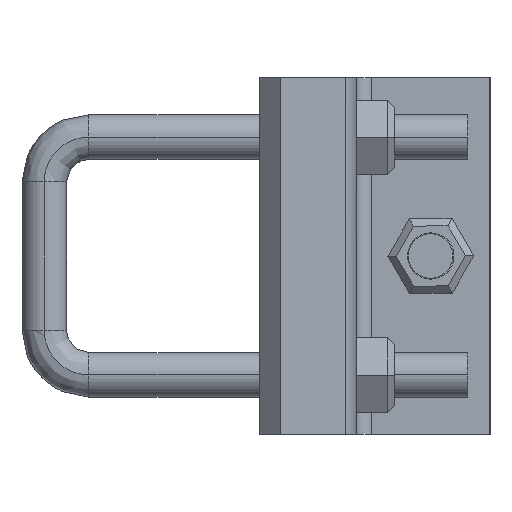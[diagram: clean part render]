
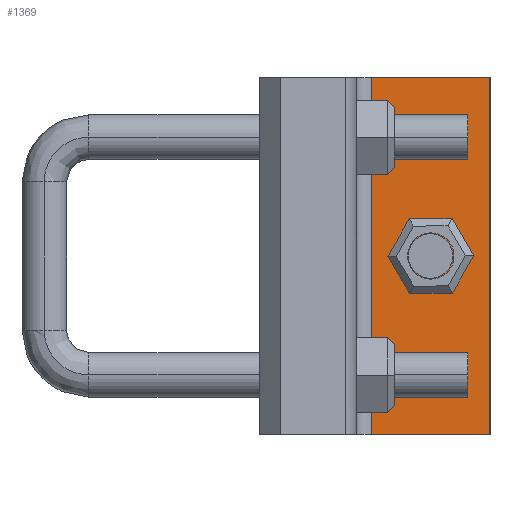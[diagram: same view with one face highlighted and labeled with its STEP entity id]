
A CAD part, left-side view. The second image highlights one B-rep face of the part: STEP entity #1369.
In plain terms, the highlighted planar face has unit normal (-1, 0, 0).
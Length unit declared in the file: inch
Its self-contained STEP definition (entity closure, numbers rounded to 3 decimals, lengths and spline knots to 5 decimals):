
#1149=EDGE_CURVE('',#2561,#2562,#2563,.T.);
#1291=EDGE_CURVE('',#2757,#2758,#2759,.T.);
#1319=EDGE_CURVE('',#2757,#2561,#2791,.T.);
#1369=ADVANCED_FACE('',(#2850,#2851),#2852,.T.);
#1691=EDGE_CURVE('',#2562,#2758,#3243,.T.);
#2561=VERTEX_POINT('',#4977);
#2562=VERTEX_POINT('',#4978);
#2563=LINE('',#4979,#4980);
#2757=VERTEX_POINT('',#5451);
#2758=VERTEX_POINT('',#5452);
#2759=LINE('',#5453,#5454);
#2791=LINE('',#5525,#5526);
#2850=FACE_OUTER_BOUND('',#5633,.T.);
#2851=FACE_BOUND('',#5634,.T.);
#2852=PLANE('',#5635);
#3243=LINE('',#6348,#6349);
#4977=CARTESIAN_POINT('',(-6.0,0.0,0.0));
#4978=CARTESIAN_POINT('',(-6.0,0.0,3.0));
#4979=CARTESIAN_POINT('',(-6.0,0.0,0.0));
#4980=VECTOR('',#7297,1.0);
#5451=CARTESIAN_POINT('',(-6.0,1.0,0.0));
#5452=CARTESIAN_POINT('',(-6.0,1.0,3.0));
#5453=CARTESIAN_POINT('',(-6.0,1.0,0.0));
#5454=VECTOR('',#7531,1.0);
#5525=CARTESIAN_POINT('',(-6.0,1.0,0.0));
#5526=VECTOR('',#7564,1.0);
#5633=EDGE_LOOP('',(#7625,#7626,#7627,#7628));
#5634=EDGE_LOOP('',(#7629,#7630));
#5635=AXIS2_PLACEMENT_3D('',#7631,#7632,#7633);
#6348=CARTESIAN_POINT('',(-6.0,1.0,3.0));
#6349=VECTOR('',#8148,1.);
#7297=DIRECTION('',(0.0,0.0,1.0));
#7531=DIRECTION('',(0.0,0.0,1.0));
#7564=DIRECTION('',(0.0,-1.0,0.0));
#7625=ORIENTED_EDGE('',*,*,#1691,.T.);
#7626=ORIENTED_EDGE('',*,*,#1291,.F.);
#7627=ORIENTED_EDGE('',*,*,#1319,.T.);
#7628=ORIENTED_EDGE('',*,*,#1149,.T.);
#7629=ORIENTED_EDGE('',*,*,#8253,.F.);
#7630=ORIENTED_EDGE('',*,*,#8329,.F.);
#7631=CARTESIAN_POINT('',(-6.0,0.5,0.0));
#7632=DIRECTION('',(-1.0,0.0,0.0));
#7633=DIRECTION('',(0.0,-1.0,0.0));
#8148=DIRECTION('',(0.0,1.0,0.0));
#8253=EDGE_CURVE('',#8514,#8510,#8516,.T.);
#8329=EDGE_CURVE('',#8510,#8514,#8598,.T.);
#8510=VERTEX_POINT('',#8790);
#8514=VERTEX_POINT('',#8795);
#8516=CIRCLE('',#8798,0.1875);
#8598=CIRCLE('',#8900,0.1875);
#8790=CARTESIAN_POINT('',(-6.0,0.68737,1.5));
#8795=CARTESIAN_POINT('',(-6.0,0.31237,1.5));
#8798=AXIS2_PLACEMENT_3D('',#9077,#9078,#9079);
#8900=AXIS2_PLACEMENT_3D('',#9120,#9121,#9122);
#9077=CARTESIAN_POINT('',(-6.0,0.49987,1.5));
#9078=DIRECTION('',(-1.0,0.0,0.0));
#9079=DIRECTION('',(0.0,1.0,0.0));
#9120=CARTESIAN_POINT('',(-6.0,0.49987,1.5));
#9121=DIRECTION('',(-1.0,0.0,0.0));
#9122=DIRECTION('',(0.0,1.0,0.0));
